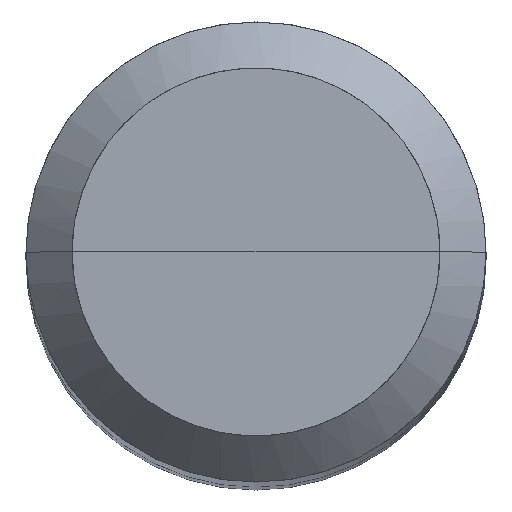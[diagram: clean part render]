
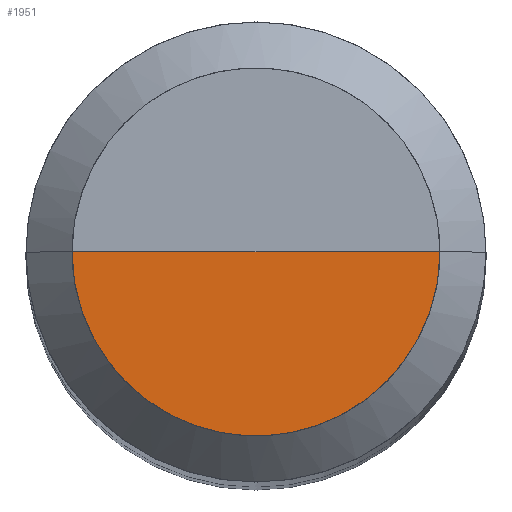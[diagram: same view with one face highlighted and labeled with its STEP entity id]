
A CAD part, top view. The second image highlights one B-rep face of the part: STEP entity #1951.
In plain terms, the highlighted free-form (B-spline) face has degree [1, 2] with [2, 5] control points.
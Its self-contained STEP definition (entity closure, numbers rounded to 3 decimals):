
#1683=CARTESIAN_POINT('',(8.0,0.0,125.0));
#1687=CARTESIAN_POINT('',(-8.0,0.0,125.0));
#1688=CARTESIAN_POINT('',(0.0,0.0,125.0));
#1692=CARTESIAN_POINT('',(-8.0,-8.0,125.0));
#1693=CARTESIAN_POINT('',(0.0,-8.0,125.0));
#1694=CARTESIAN_POINT('',(8.0,-8.0,125.0));
#1936=(
BOUNDED_SURFACE()
B_SPLINE_SURFACE(1,2,(
(#1687,#1692,#1693,#1694,#1683),
(#1688,#1688,#1688,#1688,#1688)
), .UNSPECIFIED.,.F.,.F.,.F.)
B_SPLINE_SURFACE_WITH_KNOTS((2,2),(3,2,3),(
0.0,1.0),(
0.0,0.5,1.0), .UNSPECIFIED.)
GEOMETRIC_REPRESENTATION_ITEM()
RATIONAL_B_SPLINE_SURFACE(((1.0,0.707,1.0,0.707,1.0),
(1.0,0.707,1.0,0.707,1.0)
))
REPRESENTATION_ITEM('')
SURFACE()
);
#1937=(
BOUNDED_CURVE()
B_SPLINE_CURVE(2,(#1683,#1694,#1693,#1692,#1687),.UNSPECIFIED.,.F.,.F.)
B_SPLINE_CURVE_WITH_KNOTS((3,2,3),
(0.0,0.5,1.0),.UNSPECIFIED.)
CURVE()
GEOMETRIC_REPRESENTATION_ITEM()
RATIONAL_B_SPLINE_CURVE((1.0,0.707,1.0,0.707,1.0))
REPRESENTATION_ITEM('')
);
#1938=(
BOUNDED_CURVE()
B_SPLINE_CURVE(1,(#1687,#1688),.UNSPECIFIED.,.F.,.F.)
B_SPLINE_CURVE_WITH_KNOTS((2,2),
(0.0,1.0),.UNSPECIFIED.)
CURVE()
GEOMETRIC_REPRESENTATION_ITEM()
RATIONAL_B_SPLINE_CURVE((1.0,1.0))
REPRESENTATION_ITEM('')
);
#1939=(
BOUNDED_CURVE()
B_SPLINE_CURVE(1,(#1688,#1683),.UNSPECIFIED.,.F.,.F.)
B_SPLINE_CURVE_WITH_KNOTS((2,2),
(0.0,1.0),.UNSPECIFIED.)
CURVE()
GEOMETRIC_REPRESENTATION_ITEM()
RATIONAL_B_SPLINE_CURVE((1.0,1.0))
REPRESENTATION_ITEM('')
);
#1940=VERTEX_POINT('',#1683);
#1941=VERTEX_POINT('',#1687);
#1942=VERTEX_POINT('',#1688);
#1943=EDGE_CURVE('',#1940,#1941,#1937,.T.);
#1944=EDGE_CURVE('',#1941,#1942,#1938,.T.);
#1945=EDGE_CURVE('',#1942,#1940,#1939,.T.);
#1946=ORIENTED_EDGE('',*,*,#1943,.T.);
#1947=ORIENTED_EDGE('',*,*,#1944,.T.);
#1948=ORIENTED_EDGE('',*,*,#1945,.T.);
#1949=EDGE_LOOP('',(#1946,#1947,#1948));
#1950=FACE_OUTER_BOUND('',#1949,.T.);
#1951=ADVANCED_FACE('',(#1950),#1936,.T.);
